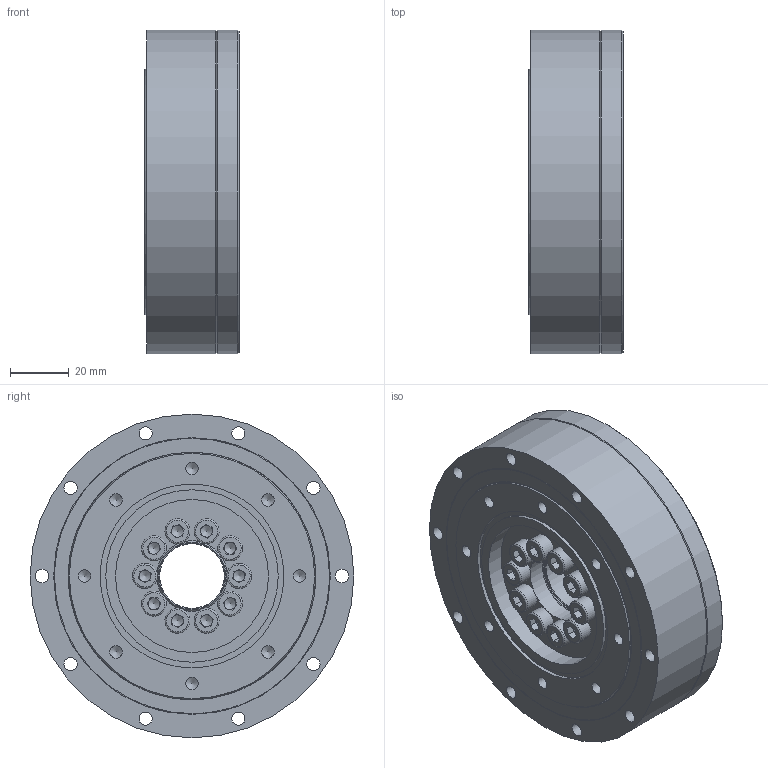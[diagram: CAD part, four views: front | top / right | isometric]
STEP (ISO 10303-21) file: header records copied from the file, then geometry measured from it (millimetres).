
FILE_DESCRIPTION (( 'STEP AP203' ), '1' );
FILE_NAME ('LCD-25-XXX-C-I.STEP', '2025-01-20T02:21:00', ( '' ), ( '' ), 'SwSTEP 2.0', 'SolidWorks 2023', '' );
FILE_SCHEMA (( 'CONFIG_CONTROL_DESIGN' ));
Length unit declared in the file: metre
Products named in the file (1): LCD-25-XXX-C-I
Bounding box: 32 x 110 x 110 mm (x, y, z)
Volume: 218903.1 mm3; surface area: 120632.9 mm2
Topology: 55 solids, 55 shells, 916 faces, 2176 edges, 1369 vertices
Faces by surface type: plane 451, cylinder 248, cone 133, bspline 84
Full cylindrical faces by diameter (mm): 2.05 x4, 2.5 x21, 3 x10, 3.5 x17, 4.2 x18, 4.5 x20, 4.7 x4, 5 x10, 5.5 x26, 6.5 x5, 8.5 x10, 22 x1, 24 x4, 25 x2, 40 x2, 43 x2, 44.2 x1, 44.5 x1, 45.22 x1, 47 x2, 48.39 x2, 50.1 x1, 52 x1, 53 x1, 56.6 x1, 58.356 x2, 58.6 x1, 60.934 x1, 61.32 x1, 62.5 x1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
Entity records: 28396 total; most frequent: CARTESIAN_POINT 9171, DIRECTION 4034, ORIENTED_EDGE 3388, EDGE_CURVE 1694, AXIS2_PLACEMENT_3D 1675, EDGE_LOOP 1468, VERTEX_POINT 1258, FACE_OUTER_BOUND 1148
